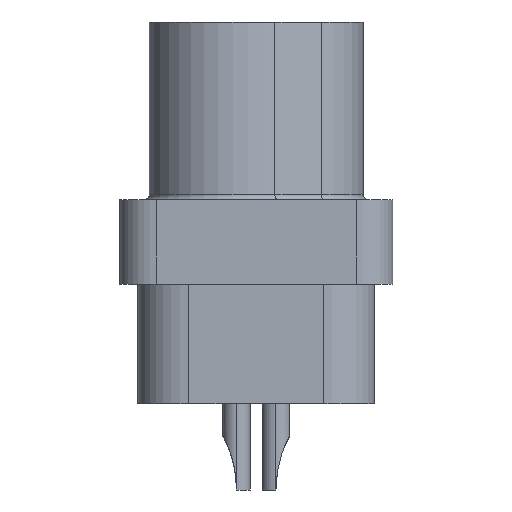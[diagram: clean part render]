
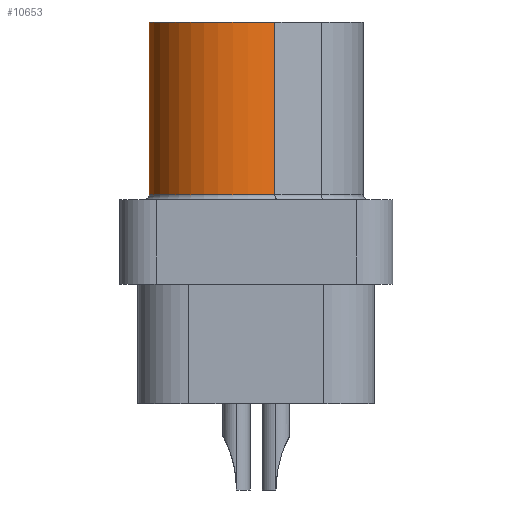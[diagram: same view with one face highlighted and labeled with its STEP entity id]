
A CAD part, left-side view. The second image highlights one B-rep face of the part: STEP entity #10653.
In plain terms, the highlighted cylindrical face has radius 2.339 mm (diameter 4.679 mm), a partial arc.
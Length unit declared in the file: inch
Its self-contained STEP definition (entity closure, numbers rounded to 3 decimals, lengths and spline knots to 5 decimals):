
#92 = VECTOR ( 'NONE', #954, 39.37008 ) ;
#328 = CYLINDRICAL_SURFACE ( 'NONE', #1568, 0.0921 ) ;
#646 = EDGE_CURVE ( 'NONE', #11199, #9416, #4913, .T. ) ;
#954 = DIRECTION ( 'NONE',  ( 0., 0., -1. ) ) ;
#1115 = ORIENTED_EDGE ( 'NONE', *, *, #11914, .T. ) ;
#1556 = CARTESIAN_POINT ( 'NONE',  ( -0.175, 0.1176, 0.045 ) ) ;
#1568 = AXIS2_PLACEMENT_3D ( 'NONE', #9573, #12397, #8141 ) ;
#1960 = ORIENTED_EDGE ( 'NONE', *, *, #2377, .F. ) ;
#2377 = EDGE_CURVE ( 'NONE', #17746, #9416, #8140, .T. ) ;
#2767 = CARTESIAN_POINT ( 'NONE',  ( -0.175, 0.0255, 0.045 ) ) ;
#2875 = ORIENTED_EDGE ( 'NONE', *, *, #646, .T. ) ;
#4043 = DIRECTION ( 'NONE',  ( 0., 0., -1. ) ) ;
#4153 = DIRECTION ( 'NONE',  ( 1., 0., 0. ) ) ;
#4913 = CIRCLE ( 'NONE', #11719, 0.0921 ) ;
#5781 = CIRCLE ( 'NONE', #10952, 0.0921 ) ;
#5987 = EDGE_CURVE ( 'NONE', #17746, #12856, #5781, .T. ) ;
#6787 = DIRECTION ( 'NONE',  ( 0., 0., -1. ) ) ;
#7721 = FACE_OUTER_BOUND ( 'NONE', #13119, .T. ) ;
#8140 = LINE ( 'NONE', #8142, #15243 ) ;
#8141 = DIRECTION ( 'NONE',  ( 1., 0., 0. ) ) ;
#8142 = CARTESIAN_POINT ( 'NONE',  ( -0.25476, -0.02055, 0.235 ) ) ;
#8487 = CARTESIAN_POINT ( 'NONE',  ( -0.175, 0.1176, 0.235 ) ) ;
#9328 = CARTESIAN_POINT ( 'NONE',  ( -0.175, 0.1176, 0.235 ) ) ;
#9416 = VERTEX_POINT ( 'NONE', #12801 ) ;
#9573 = CARTESIAN_POINT ( 'NONE',  ( -0.175, 0.0255, 0.235 ) ) ;
#10653 = ADVANCED_FACE ( 'NONE', ( #7721 ), #328, .T. ) ;
#10952 = AXIS2_PLACEMENT_3D ( 'NONE', #15241, #6787, #16631 ) ;
#11199 = VERTEX_POINT ( 'NONE', #1556 ) ;
#11254 = LINE ( 'NONE', #9328, #92 ) ;
#11719 = AXIS2_PLACEMENT_3D ( 'NONE', #2767, #12524, #4153 ) ;
#11914 = EDGE_CURVE ( 'NONE', #12856, #11199, #11254, .T. ) ;
#12397 = DIRECTION ( 'NONE',  ( 0., 0., -1. ) ) ;
#12524 = DIRECTION ( 'NONE',  ( 0., 0., 1. ) ) ;
#12801 = CARTESIAN_POINT ( 'NONE',  ( -0.25476, -0.02055, 0.045 ) ) ;
#12856 = VERTEX_POINT ( 'NONE', #8487 ) ;
#13119 = EDGE_LOOP ( 'NONE', ( #1115, #2875, #1960, #16998 ) ) ;
#15241 = CARTESIAN_POINT ( 'NONE',  ( -0.175, 0.0255, 0.235 ) ) ;
#15243 = VECTOR ( 'NONE', #4043, 39.37008 ) ;
#15741 = CARTESIAN_POINT ( 'NONE',  ( -0.25476, -0.02055, 0.235 ) ) ;
#16631 = DIRECTION ( 'NONE',  ( 1., 0., 0. ) ) ;
#16998 = ORIENTED_EDGE ( 'NONE', *, *, #5987, .T. ) ;
#17746 = VERTEX_POINT ( 'NONE', #15741 ) ;
